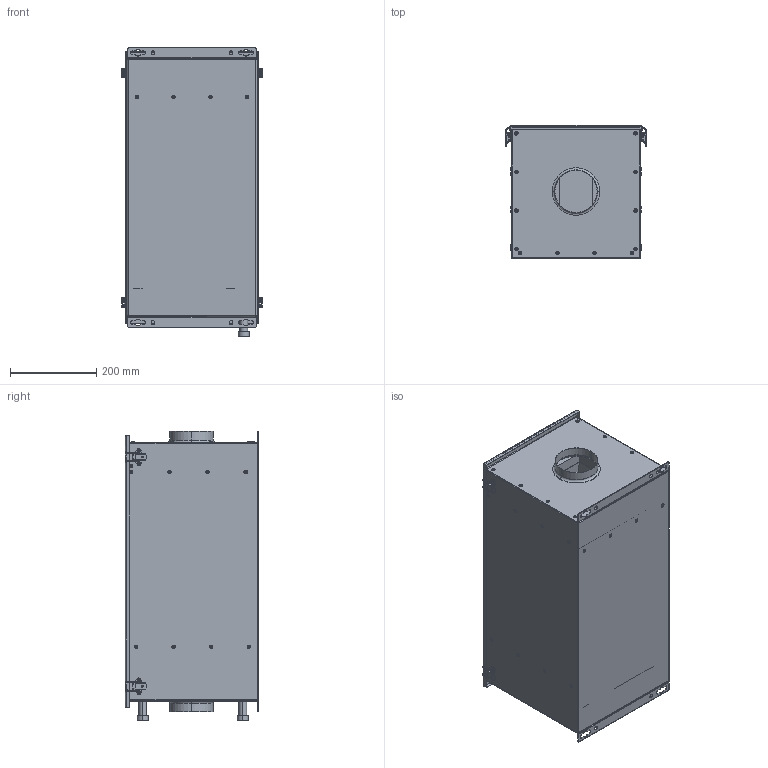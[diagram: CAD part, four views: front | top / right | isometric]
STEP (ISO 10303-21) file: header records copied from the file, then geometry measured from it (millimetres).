
FILE_DESCRIPTION (( 'STEP AP203' ), '1' );
FILE_NAME ('112849-00_FTW100_step.step', '2020-08-26T09:24:21', ( '' ), ( '' ), 'SwSTEP 2.0', 'SolidWorks 2017', '' );
FILE_SCHEMA (( 'CONFIG_CONTROL_DESIGN' ));
Length unit declared in the file: millimetre
Products named in the file (1): 112849-00_FTW100_step
Bounding box: 327.58 x 309.3 x 670 mm (x, y, z)
Surface area: 1919741.9 mm2 (no closed solid volume)
Topology: 0 solids, 88 shells, 820 faces, 2569 edges, 1740 vertices
Faces by surface type: cylinder 417, plane 199, torus 118, bspline 86
Entity records: 30623 total; most frequent: CARTESIAN_POINT 7249, DIRECTION 5415, ORIENTED_EDGE 4120, EDGE_CURVE 2569, AXIS2_PLACEMENT_3D 2178, VERTEX_POINT 1740, CIRCLE 1443, LINE 1059
